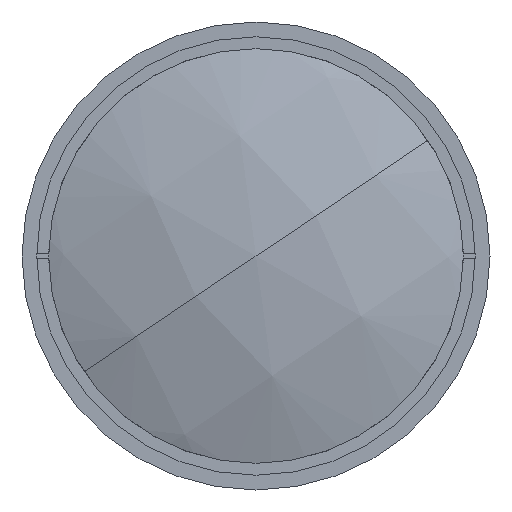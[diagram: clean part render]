
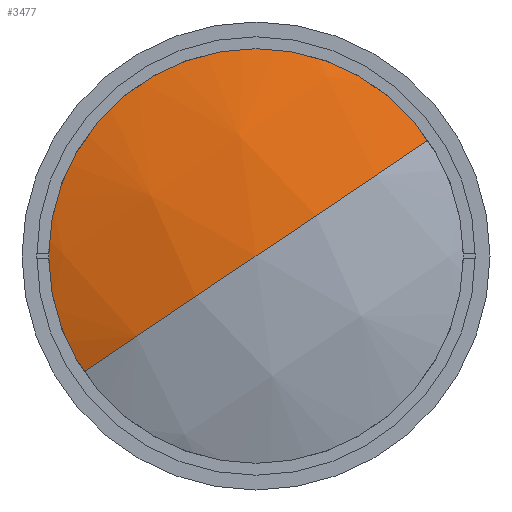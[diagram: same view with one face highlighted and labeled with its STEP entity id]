
A CAD part, left-side view. The second image highlights one B-rep face of the part: STEP entity #3477.
In plain terms, the highlighted spherical face has radius 102.234 mm.
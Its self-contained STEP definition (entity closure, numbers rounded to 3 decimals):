
#506 = CARTESIAN_POINT ( 'NONE',  ( 1., 0., 0. ) ) ;
#619 = DIRECTION ( 'NONE',  ( 0., 0.558, 0.83 ) ) ;
#906 = CIRCLE ( 'NONE', #4208, 36. ) ;
#1011 = CARTESIAN_POINT ( 'NONE',  ( 7.548, 29.871, -20.093 ) ) ;
#1018 = ORIENTED_EDGE ( 'NONE', *, *, #4158, .T. ) ;
#1044 = CARTESIAN_POINT ( 'NONE',  ( 7.548, -29.871, 20.093 ) ) ;
#1147 = ORIENTED_EDGE ( 'NONE', *, *, #3597, .T. ) ;
#1227 = CARTESIAN_POINT ( 'NONE',  ( 103.234, 0., 0. ) ) ;
#1353 = FACE_OUTER_BOUND ( 'NONE', #2093, .T. ) ;
#1647 = CIRCLE ( 'NONE', #3412, 102.234 ) ;
#1928 = AXIS2_PLACEMENT_3D ( 'NONE', #2264, #2256, #2694 ) ;
#2043 = VERTEX_POINT ( 'NONE', #506 ) ;
#2093 = EDGE_LOOP ( 'NONE', ( #1018, #1147, #3316 ) ) ;
#2256 = DIRECTION ( 'NONE',  ( 0., -0.558, -0.83 ) ) ;
#2264 = CARTESIAN_POINT ( 'NONE',  ( 103.234, 0., 0. ) ) ;
#2357 = AXIS2_PLACEMENT_3D ( 'NONE', #1227, #619, #3868 ) ;
#2363 = EDGE_CURVE ( 'NONE', #3053, #2043, #4058, .T. ) ;
#2452 = SPHERICAL_SURFACE ( 'NONE', #2357, 102.234 ) ;
#2694 = DIRECTION ( 'NONE',  ( 0., 0.83, -0.558 ) ) ;
#2893 = DIRECTION ( 'NONE',  ( 0., -0.83, 0.558 ) ) ;
#3053 = VERTEX_POINT ( 'NONE', #1044 ) ;
#3207 = DIRECTION ( 'NONE',  ( 0., 0.558, 0.83 ) ) ;
#3316 = ORIENTED_EDGE ( 'NONE', *, *, #2363, .F. ) ;
#3412 = AXIS2_PLACEMENT_3D ( 'NONE', #3534, #3207, #2893 ) ;
#3477 = ADVANCED_FACE ( 'NONE', ( #1353 ), #2452, .T. ) ;
#3534 = CARTESIAN_POINT ( 'NONE',  ( 103.234, 0., 0. ) ) ;
#3597 = EDGE_CURVE ( 'NONE', #4133, #2043, #1647, .T. ) ;
#3868 = DIRECTION ( 'NONE',  ( 0., -0.83, 0.558 ) ) ;
#4058 = CIRCLE ( 'NONE', #1928, 102.234 ) ;
#4133 = VERTEX_POINT ( 'NONE', #1011 ) ;
#4158 = EDGE_CURVE ( 'NONE', #3053, #4133, #906, .T. ) ;
#4193 = DIRECTION ( 'NONE',  ( 0., 0.558, 0.83 ) ) ;
#4208 = AXIS2_PLACEMENT_3D ( 'NONE', #4250, #4235, #4193 ) ;
#4235 = DIRECTION ( 'NONE',  ( -1., 0., 0. ) ) ;
#4250 = CARTESIAN_POINT ( 'NONE',  ( 7.548, 0., 0. ) ) ;
